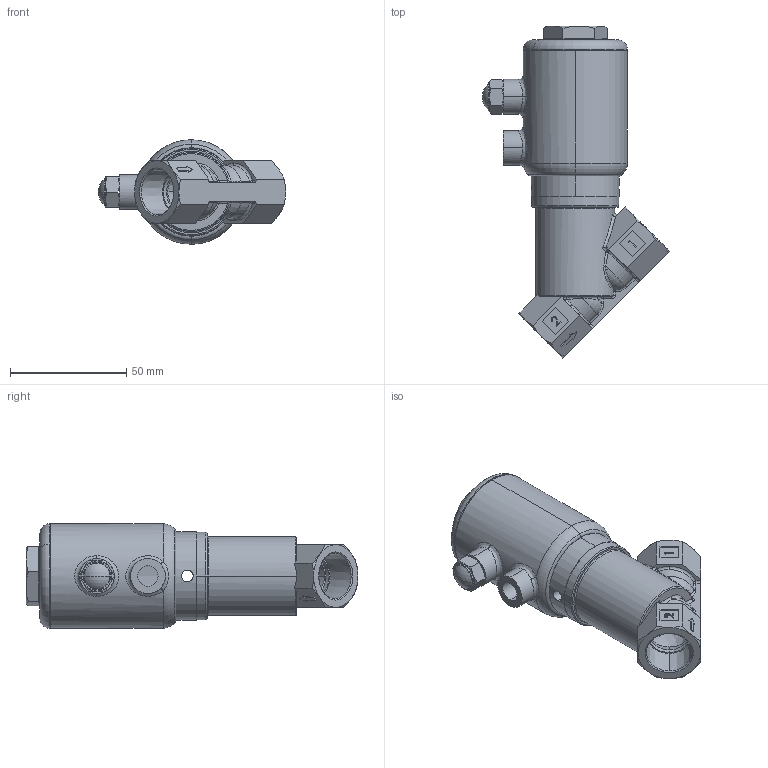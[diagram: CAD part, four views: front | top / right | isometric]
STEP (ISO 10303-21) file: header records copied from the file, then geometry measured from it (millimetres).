
FILE_DESCRIPTION (( 'STEP AP203' ), '1' );
FILE_NAME ('PCIPFM_015_0_1N.STEP', '2017-12-06T14:49:15', ( 'user' ), ( '' ), 'SwSTEP 2.0', 'SolidWorks 2013', '' );
FILE_SCHEMA (( 'CONFIG_CONTROL_DESIGN' ));
Length unit declared in the file: millimetre
Products named in the file (1): PCIPFM_015_0_1N
Bounding box: 80.66 x 142.99 x 45 mm (x, y, z)
Surface area: 28596.4 mm2 (no closed solid volume)
Topology: 0 solids, 5 shells, 295 faces, 764 edges, 480 vertices
Faces by surface type: plane 105, cylinder 56, cone 47, bspline 45, torus 24, sphere 18
Entity records: 13183 total; most frequent: CARTESIAN_POINT 6397, ORIENTED_EDGE 1442, DIRECTION 1284, EDGE_CURVE 760, AXIS2_PLACEMENT_3D 486, VERTEX_POINT 478, EDGE_LOOP 322, VECTOR 312
